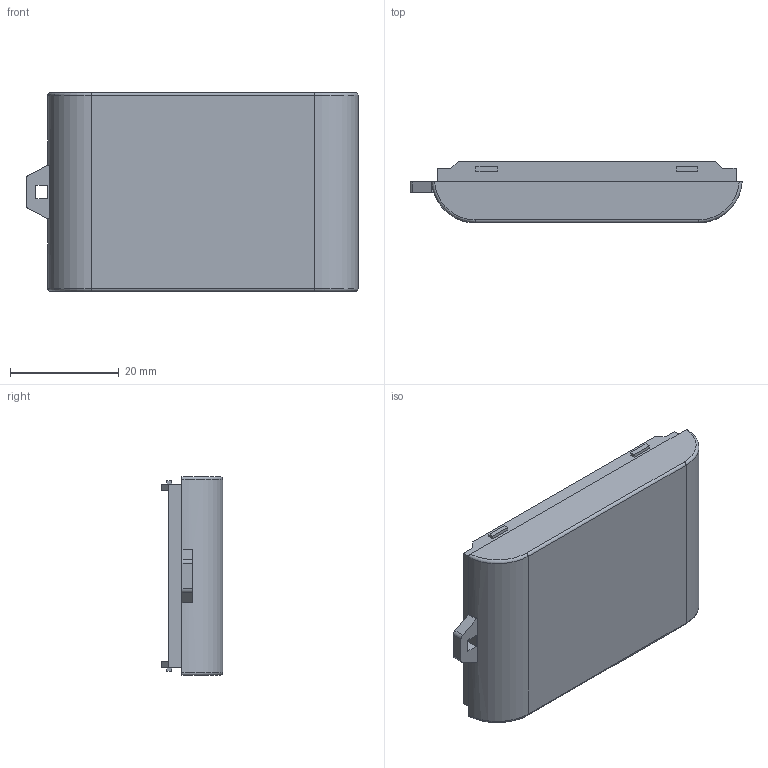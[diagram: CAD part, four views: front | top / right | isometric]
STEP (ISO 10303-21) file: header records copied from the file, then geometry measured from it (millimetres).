
FILE_DESCRIPTION (( 'STEP AP214' ), '1' );
FILE_NAME ('Cos PP66.STEP', '2017-12-15T10:40:57', ( 'aaa' ), ( '' ), 'SwSTEP 2.0', 'SolidWorks 2013', '' );
FILE_SCHEMA (( 'AUTOMOTIVE_DESIGN' ));
Length unit declared in the file: millimetre
Products named in the file (1): Cos PP66
Bounding box: 61 x 11.3 x 36.5 mm (x, y, z)
Volume: 5770.2 mm3; surface area: 7439.8 mm2
Topology: 1 solids, 1 shells, 116 faces, 306 edges, 202 vertices
Faces by surface type: plane 100, cylinder 12, torus 4
Entity records: 3590 total; most frequent: CARTESIAN_POINT 645, ORIENTED_EDGE 612, DIRECTION 574, EDGE_CURVE 306, VECTOR 264, LINE 264, VERTEX_POINT 202, AXIS2_PLACEMENT_3D 155
